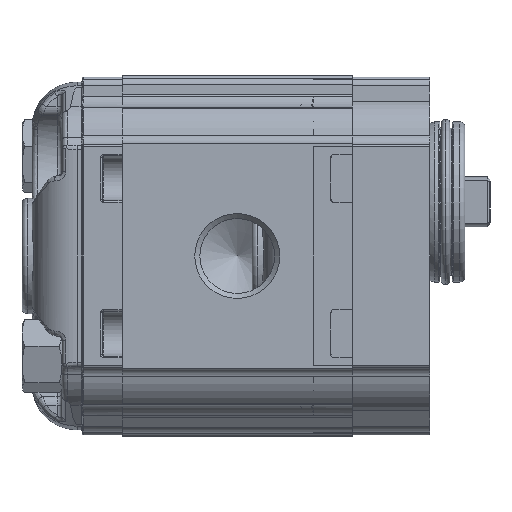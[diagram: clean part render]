
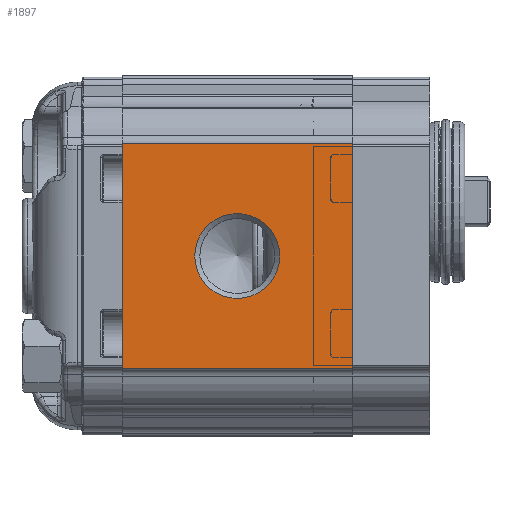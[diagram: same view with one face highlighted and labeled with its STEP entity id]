
A CAD part, left-side view. The second image highlights one B-rep face of the part: STEP entity #1897.
In plain terms, the highlighted planar face has unit normal (-1, 0, 0).
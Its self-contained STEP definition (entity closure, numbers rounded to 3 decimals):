
#1897 = ADVANCED_FACE( '', ( #4869, #4870 ), #4871, .T. );
#4869 = FACE_BOUND( '', #9837, .T. );
#4870 = FACE_OUTER_BOUND( '', #9838, .T. );
#4871 = PLANE( '', #9839 );
#9837 = EDGE_LOOP( '', ( #18242 ) );
#9838 = EDGE_LOOP( '', ( #18243, #18244, #18245, #18246 ) );
#9839 = AXIS2_PLACEMENT_3D( '', #18247, #18248, #18249 );
#18242 = ORIENTED_EDGE( '', *, *, #28644, .F. );
#18243 = ORIENTED_EDGE( '', *, *, #28645, .T. );
#18244 = ORIENTED_EDGE( '', *, *, #28646, .T. );
#18245 = ORIENTED_EDGE( '', *, *, #28647, .T. );
#18246 = ORIENTED_EDGE( '', *, *, #28648, .F. );
#18247 = CARTESIAN_POINT( '', ( -33., 126.409, 48.138 ) );
#18248 = DIRECTION( '', ( -1., 0., 0. ) );
#18249 = DIRECTION( '', ( 0., 0., 1. ) );
#28644 = EDGE_CURVE( '', #33995, #33995, #33996, .F. );
#28645 = EDGE_CURVE( '', #33997, #33998, #33999, .T. );
#28646 = EDGE_CURVE( '', #33998, #34000, #34001, .T. );
#28647 = EDGE_CURVE( '', #34000, #34002, #34003, .F. );
#28648 = EDGE_CURVE( '', #33997, #34002, #34004, .T. );
#33995 = VERTEX_POINT( '', #43184 );
#33996 = CIRCLE( '', #43185, 8.475 );
#33997 = VERTEX_POINT( '', #43186 );
#33998 = VERTEX_POINT( '', #43187 );
#33999 = LINE( '', #43188, #43189 );
#34000 = VERTEX_POINT( '', #43190 );
#34001 = LINE( '', #43191, #43192 );
#34002 = VERTEX_POINT( '', #43193 );
#34003 = LINE( '', #43194, #43195 );
#34004 = LINE( '', #43196, #43197 );
#43184 = CARTESIAN_POINT( '', ( -33., 23., -8.475 ) );
#43185 = AXIS2_PLACEMENT_3D( '', #54064, #54065, #54066 );
#43186 = CARTESIAN_POINT( '', ( -33., 46., -22.5 ) );
#43187 = CARTESIAN_POINT( '', ( -33., 0., -22.5 ) );
#43188 = CARTESIAN_POINT( '', ( -33., 46., -22.5 ) );
#43189 = VECTOR( '', #54067, 1000. );
#43190 = CARTESIAN_POINT( '', ( -33., 0., 22.5 ) );
#43191 = CARTESIAN_POINT( '', ( -33., 0., -21.711 ) );
#43192 = VECTOR( '', #54068, 1000. );
#43193 = CARTESIAN_POINT( '', ( -33., 46., 22.5 ) );
#43194 = CARTESIAN_POINT( '', ( -33., 46., 22.5 ) );
#43195 = VECTOR( '', #54069, 1000. );
#43196 = CARTESIAN_POINT( '', ( -33., 46., -21.711 ) );
#43197 = VECTOR( '', #54070, 1000. );
#54064 = CARTESIAN_POINT( '', ( -33., 23., 0. ) );
#54065 = DIRECTION( '', ( 1., 0., 0. ) );
#54066 = DIRECTION( '', ( 0., 0., -1. ) );
#54067 = DIRECTION( '', ( 0., -1., 0. ) );
#54068 = DIRECTION( '', ( 0., 0., 1. ) );
#54069 = DIRECTION( '', ( 0., -1., 0. ) );
#54070 = DIRECTION( '', ( 0., 0., 1. ) );
